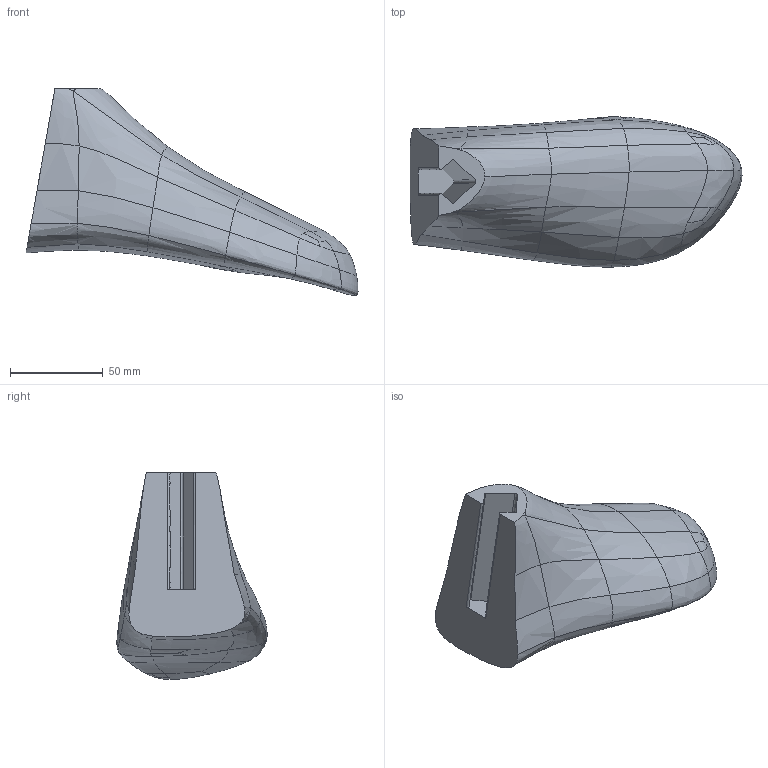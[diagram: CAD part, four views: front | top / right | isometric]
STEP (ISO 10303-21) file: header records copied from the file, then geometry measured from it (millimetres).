
FILE_DESCRIPTION(/* description */ (''),/* implementation_level */ '2;1');
FILE_NAME(/* name */ '40-sample-toe',/* time_stamp */ '2026-02-27T14:12:35-07:00',/* author */ (''),/* organization */ (''),/* preprocessor_version */ 'ST-DEVELOPER v19.2',/* originating_system */ 'Rhino 8.28',/* authorisation */ '');
FILE_SCHEMA (('AUTOMOTIVE_DESIGN'));
Length unit declared in the file: millimetre
Products named in the file (1): Document
Bounding box: 179.16 x 81.16 x 111.68 mm (x, y, z)
Volume: 509273.4 mm3; surface area: 44951.4 mm2
Topology: 1 solids, 1 shells, 86 faces, 195 edges, 111 vertices
Faces by surface type: bspline 79, plane 7
Entity records: 9339 total; most frequent: CARTESIAN_POINT 7634, ORIENTED_EDGE 390, EDGE_CURVE 195, B_SPLINE_CURVE_WITH_KNOTS 190, VERTEX_POINT 111, ADVANCED_FACE 86, FACE_OUTER_BOUND 86, EDGE_LOOP 86
